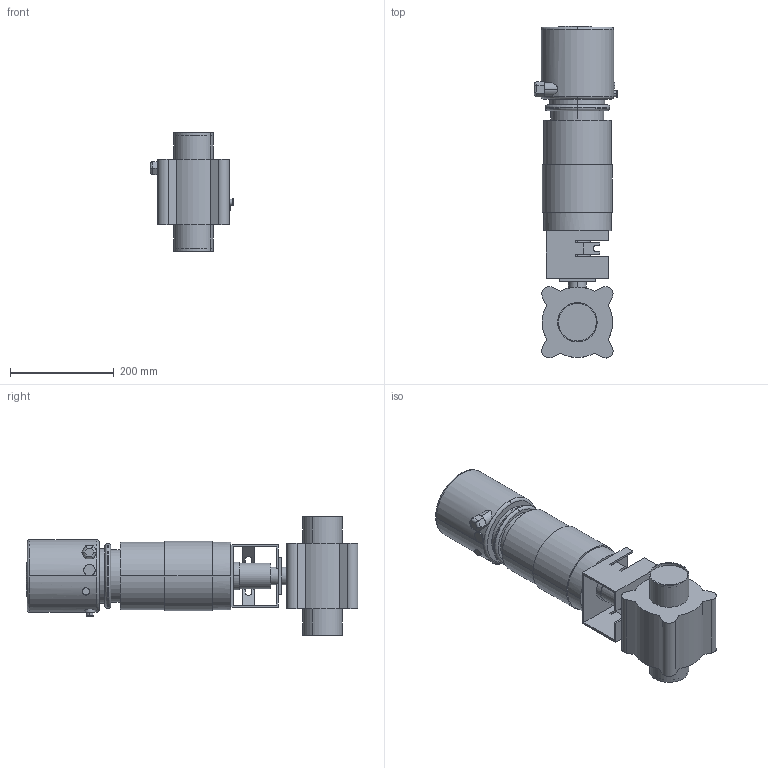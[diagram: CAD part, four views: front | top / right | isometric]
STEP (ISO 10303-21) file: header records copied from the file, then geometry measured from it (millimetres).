
FILE_DESCRIPTION(('Creo Elements/Direct Modeling STEP Export'),'2;1');
FILE_NAME('BLV1-3T-NC-12S-CU4.stp','2019-05-10T 8:27:36',(''),(''),'Creo Elements/Direct Modeling STEP processor for AP214 (Solid Model)','Creo Elements/Direct Modeling 19.0F 14-Feb-2017 (C) Parametric Technology GmbH','');
FILE_SCHEMA(('AUTOMOTIVE_DESIGN { 1 0 10303 214 1 1 1 1 }'));
Length unit declared in the file: millimetre
Products named in the file (2): BLV1-3T-NC-12S-CU4
Assembly tree (1 placements, depth 2):
  BLV1-3T-NC-12S-CU4
    BLV1-3T-NC-12S-CU4
Bounding box: 161.4 x 640.49 x 229 mm (x, y, z)
Volume: 8438403.5 mm3; surface area: 433459 mm2
Topology: 1 solids, 2 shells, 249 faces, 634 edges, 413 vertices
Faces by surface type: plane 120, cylinder 119, torus 10
Entity records: 10448 total; most frequent: CARTESIAN_POINT 4495, ORIENTED_EDGE 1270, DIRECTION 1153, EDGE_CURVE 635, AXIS2_PLACEMENT_3D 423, VERTEX_POINT 413, VECTOR 307, LINE 307
